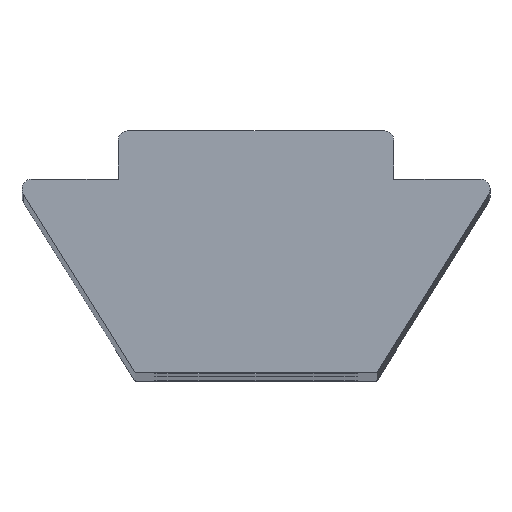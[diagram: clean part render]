
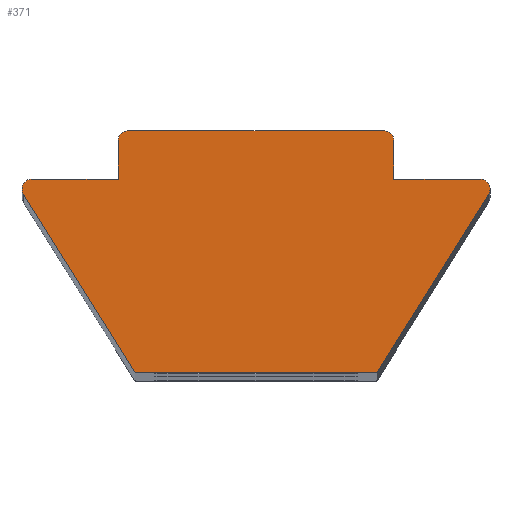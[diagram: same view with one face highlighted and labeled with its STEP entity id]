
A CAD part, top view. The second image highlights one B-rep face of the part: STEP entity #371.
In plain terms, the highlighted planar face has unit normal (0, 0, 1).
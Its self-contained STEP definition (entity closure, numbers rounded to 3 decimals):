
#18 = VECTOR ( 'NONE', #124, 1000. ) ;
#25 = ORIENTED_EDGE ( 'NONE', *, *, #474, .T. ) ;
#34 = CARTESIAN_POINT ( 'NONE',  ( 2.65, 5., 50. ) ) ;
#35 = AXIS2_PLACEMENT_3D ( 'NONE', #85, #655, #823 ) ;
#38 = ORIENTED_EDGE ( 'NONE', *, *, #140, .T. ) ;
#40 = DIRECTION ( 'NONE',  ( -1., 0., 0. ) ) ;
#51 = DIRECTION ( 'NONE',  ( -1., 0., 0. ) ) ;
#59 = CARTESIAN_POINT ( 'NONE',  ( -2.65, 4.8, 50. ) ) ;
#62 = EDGE_CURVE ( 'NONE', #159, #263, #501, .T. ) ;
#67 = DIRECTION ( 'NONE',  ( 0., 0., 1. ) ) ;
#82 = VECTOR ( 'NONE', #403, 1000. ) ;
#85 = CARTESIAN_POINT ( 'NONE',  ( -4.639, 3.8, 50. ) ) ;
#86 = CARTESIAN_POINT ( 'NONE',  ( -2.65, 5., 50. ) ) ;
#87 = VERTEX_POINT ( 'NONE', #734 ) ;
#90 = ORIENTED_EDGE ( 'NONE', *, *, #748, .T. ) ;
#92 = LINE ( 'NONE', #417, #82 ) ;
#94 = EDGE_CURVE ( 'NONE', #87, #413, #432, .T. ) ;
#109 = ORIENTED_EDGE ( 'NONE', *, *, #62, .T. ) ;
#124 = DIRECTION ( 'NONE',  ( 1., 0., 0. ) ) ;
#128 = CARTESIAN_POINT ( 'NONE',  ( -4.639, 3.8, 50. ) ) ;
#140 = EDGE_CURVE ( 'NONE', #148, #277, #92, .T. ) ;
#148 = VERTEX_POINT ( 'NONE', #343 ) ;
#151 = AXIS2_PLACEMENT_3D ( 'NONE', #584, #189, #654 ) ;
#159 = VERTEX_POINT ( 'NONE', #284 ) ;
#181 = ORIENTED_EDGE ( 'NONE', *, *, #206, .T. ) ;
#188 = VERTEX_POINT ( 'NONE', #601 ) ;
#189 = DIRECTION ( 'NONE',  ( 0., 0., 1. ) ) ;
#193 = AXIS2_PLACEMENT_3D ( 'NONE', #811, #445, #40 ) ;
#197 = DIRECTION ( 'NONE',  ( -1., 0., 0. ) ) ;
#206 = EDGE_CURVE ( 'NONE', #208, #87, #729, .T. ) ;
#208 = VERTEX_POINT ( 'NONE', #780 ) ;
#224 = ORIENTED_EDGE ( 'NONE', *, *, #94, .T. ) ;
#232 = EDGE_CURVE ( 'NONE', #558, #452, #785, .T. ) ;
#238 = EDGE_CURVE ( 'NONE', #263, #311, #386, .T. ) ;
#259 = CARTESIAN_POINT ( 'NONE',  ( -4.639, 4., 50. ) ) ;
#262 = CARTESIAN_POINT ( 'NONE',  ( -2.85, 4., 50. ) ) ;
#263 = VERTEX_POINT ( 'NONE', #262 ) ;
#277 = VERTEX_POINT ( 'NONE', #328 ) ;
#284 = CARTESIAN_POINT ( 'NONE',  ( -2.85, 4.8, 50. ) ) ;
#291 = ORIENTED_EDGE ( 'NONE', *, *, #774, .T. ) ;
#292 = VECTOR ( 'NONE', #662, 1000. ) ;
#302 = EDGE_CURVE ( 'NONE', #452, #159, #764, .T. ) ;
#311 = VERTEX_POINT ( 'NONE', #259 ) ;
#315 = AXIS2_PLACEMENT_3D ( 'NONE', #128, #594, #197 ) ;
#326 = ORIENTED_EDGE ( 'NONE', *, *, #232, .T. ) ;
#328 = CARTESIAN_POINT ( 'NONE',  ( -2.5, 0., 50. ) ) ;
#340 = DIRECTION ( 'NONE',  ( -1., 0., 0. ) ) ;
#341 = FACE_OUTER_BOUND ( 'NONE', #363, .T. ) ;
#342 = EDGE_CURVE ( 'NONE', #188, #430, #653, .T. ) ;
#343 = CARTESIAN_POINT ( 'NONE',  ( -4.809, 3.694, 50. ) ) ;
#345 = AXIS2_PLACEMENT_3D ( 'NONE', #59, #67, #51 ) ;
#363 = EDGE_LOOP ( 'NONE', ( #224, #724, #326, #704, #109, #487, #25, #291, #38, #90, #457, #407, #181 ) ) ;
#371 = ADVANCED_FACE ( 'NONE', ( #341 ), #666, .F. ) ;
#381 = VECTOR ( 'NONE', #614, 1000. ) ;
#386 = LINE ( 'NONE', #722, #292 ) ;
#403 = DIRECTION ( 'NONE',  ( 0.53, -0.848, 0. ) ) ;
#404 = CARTESIAN_POINT ( 'NONE',  ( 2.85, 4.8, 50. ) ) ;
#405 = CIRCLE ( 'NONE', #315, 0.2 ) ;
#407 = ORIENTED_EDGE ( 'NONE', *, *, #674, .T. ) ;
#412 = DIRECTION ( 'NONE',  ( 0.53, 0.848, 0. ) ) ;
#413 = VERTEX_POINT ( 'NONE', #404 ) ;
#417 = CARTESIAN_POINT ( 'NONE',  ( -2.5, 0., 50. ) ) ;
#427 = LINE ( 'NONE', #588, #18 ) ;
#430 = VERTEX_POINT ( 'NONE', #531 ) ;
#432 = LINE ( 'NONE', #784, #381 ) ;
#445 = DIRECTION ( 'NONE',  ( 0., 0., 1. ) ) ;
#448 = VECTOR ( 'NONE', #672, 1000. ) ;
#452 = VERTEX_POINT ( 'NONE', #86 ) ;
#454 = CIRCLE ( 'NONE', #35, 0.2 ) ;
#457 = ORIENTED_EDGE ( 'NONE', *, *, #342, .T. ) ;
#474 = EDGE_CURVE ( 'NONE', #311, #710, #454, .T. ) ;
#478 = VECTOR ( 'NONE', #725, 1000. ) ;
#487 = ORIENTED_EDGE ( 'NONE', *, *, #238, .T. ) ;
#501 = LINE ( 'NONE', #789, #478 ) ;
#524 = CARTESIAN_POINT ( 'NONE',  ( -4.839, 3.8, 50. ) ) ;
#531 = CARTESIAN_POINT ( 'NONE',  ( 4.809, 3.694, 50. ) ) ;
#535 = CARTESIAN_POINT ( 'NONE',  ( 5., 4., 50. ) ) ;
#550 = DIRECTION ( 'NONE',  ( -1., 0., 0. ) ) ;
#558 = VERTEX_POINT ( 'NONE', #34 ) ;
#584 = CARTESIAN_POINT ( 'NONE',  ( 4.639, 3.8, 50. ) ) ;
#588 = CARTESIAN_POINT ( 'NONE',  ( -2.5, 0., 50. ) ) ;
#594 = DIRECTION ( 'NONE',  ( 0., 0., 1. ) ) ;
#596 = DIRECTION ( 'NONE',  ( 0., 0., -1. ) ) ;
#599 = VECTOR ( 'NONE', #340, 1000. ) ;
#601 = CARTESIAN_POINT ( 'NONE',  ( 2.5, 0., 50. ) ) ;
#609 = CARTESIAN_POINT ( 'NONE',  ( 2.5, 0., 50. ) ) ;
#614 = DIRECTION ( 'NONE',  ( 0., 1., 0. ) ) ;
#652 = EDGE_CURVE ( 'NONE', #413, #558, #777, .T. ) ;
#653 = LINE ( 'NONE', #609, #802 ) ;
#654 = DIRECTION ( 'NONE',  ( -1., 0., 0. ) ) ;
#655 = DIRECTION ( 'NONE',  ( 0., 0., 1. ) ) ;
#662 = DIRECTION ( 'NONE',  ( -1., 0., 0. ) ) ;
#666 = PLANE ( 'NONE',  #840 ) ;
#672 = DIRECTION ( 'NONE',  ( -1., 0., 0. ) ) ;
#674 = EDGE_CURVE ( 'NONE', #430, #208, #741, .T. ) ;
#704 = ORIENTED_EDGE ( 'NONE', *, *, #302, .T. ) ;
#710 = VERTEX_POINT ( 'NONE', #524 ) ;
#711 = CARTESIAN_POINT ( 'NONE',  ( 2.85, 5., 50. ) ) ;
#722 = CARTESIAN_POINT ( 'NONE',  ( -5., 4., 50. ) ) ;
#724 = ORIENTED_EDGE ( 'NONE', *, *, #652, .T. ) ;
#725 = DIRECTION ( 'NONE',  ( 0., -1., 0. ) ) ;
#729 = LINE ( 'NONE', #535, #599 ) ;
#734 = CARTESIAN_POINT ( 'NONE',  ( 2.85, 4., 50. ) ) ;
#741 = CIRCLE ( 'NONE', #151, 0.2 ) ;
#748 = EDGE_CURVE ( 'NONE', #277, #188, #427, .T. ) ;
#764 = CIRCLE ( 'NONE', #345, 0.2 ) ;
#774 = EDGE_CURVE ( 'NONE', #710, #148, #405, .T. ) ;
#777 = CIRCLE ( 'NONE', #193, 0.2 ) ;
#780 = CARTESIAN_POINT ( 'NONE',  ( 4.639, 4., 50. ) ) ;
#784 = CARTESIAN_POINT ( 'NONE',  ( 2.85, 4., 50. ) ) ;
#785 = LINE ( 'NONE', #711, #448 ) ;
#789 = CARTESIAN_POINT ( 'NONE',  ( -2.85, 4., 50. ) ) ;
#790 = CARTESIAN_POINT ( 'NONE',  ( 0., 0., 50. ) ) ;
#802 = VECTOR ( 'NONE', #412, 1000. ) ;
#811 = CARTESIAN_POINT ( 'NONE',  ( 2.65, 4.8, 50. ) ) ;
#823 = DIRECTION ( 'NONE',  ( -1., 0., 0. ) ) ;
#840 = AXIS2_PLACEMENT_3D ( 'NONE', #790, #596, #550 ) ;
